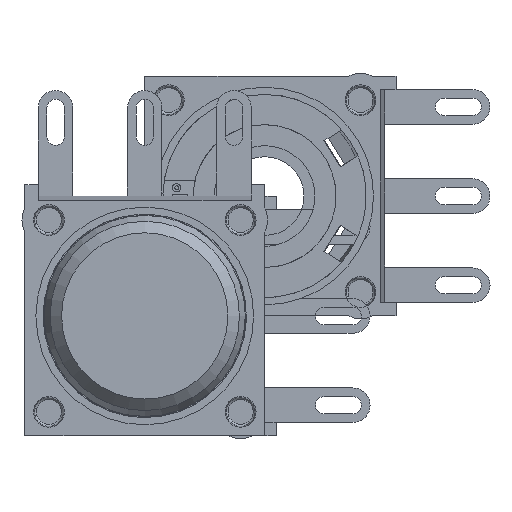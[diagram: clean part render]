
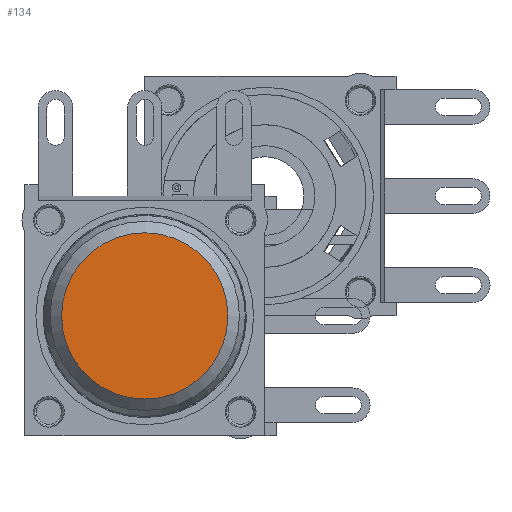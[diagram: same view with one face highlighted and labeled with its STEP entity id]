
A CAD part, left-side view. The second image highlights one B-rep face of the part: STEP entity #134.
In plain terms, the highlighted planar face has unit normal (-1, 0, 0) as drawn and (0, 0, 1) by its records, which use the part's own axes.
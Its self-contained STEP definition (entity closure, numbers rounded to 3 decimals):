
#134 = ADVANCED_FACE( '', ( #232 ), #233, .T. );
#232 = FACE_OUTER_BOUND( '', #331, .T. );
#233 = PLANE( '', #332 );
#331 = EDGE_LOOP( '', ( #780 ) );
#332 = AXIS2_PLACEMENT_3D( '', #781, #782, #783 );
#780 = ORIENTED_EDGE( '', *, *, #1590, .T. );
#781 = CARTESIAN_POINT( '', ( 0., 0., 1.4 ) );
#782 = DIRECTION( '', ( 0., 0., 1. ) );
#783 = DIRECTION( '', ( 1., 0., 0. ) );
#1590 = EDGE_CURVE( '', #2560, #2560, #2561, .T. );
#2560 = VERTEX_POINT( '', #5314 );
#2561 = CIRCLE( '', #5315, 4.334 );
#5314 = CARTESIAN_POINT( '', ( 4.334, 0., 1.4 ) );
#5315 = AXIS2_PLACEMENT_3D( '', #6204, #6205, #6206 );
#6204 = CARTESIAN_POINT( '', ( 0., 0., 1.4 ) );
#6205 = DIRECTION( '', ( 0., 0., 1. ) );
#6206 = DIRECTION( '', ( 1., 0., 0. ) );
